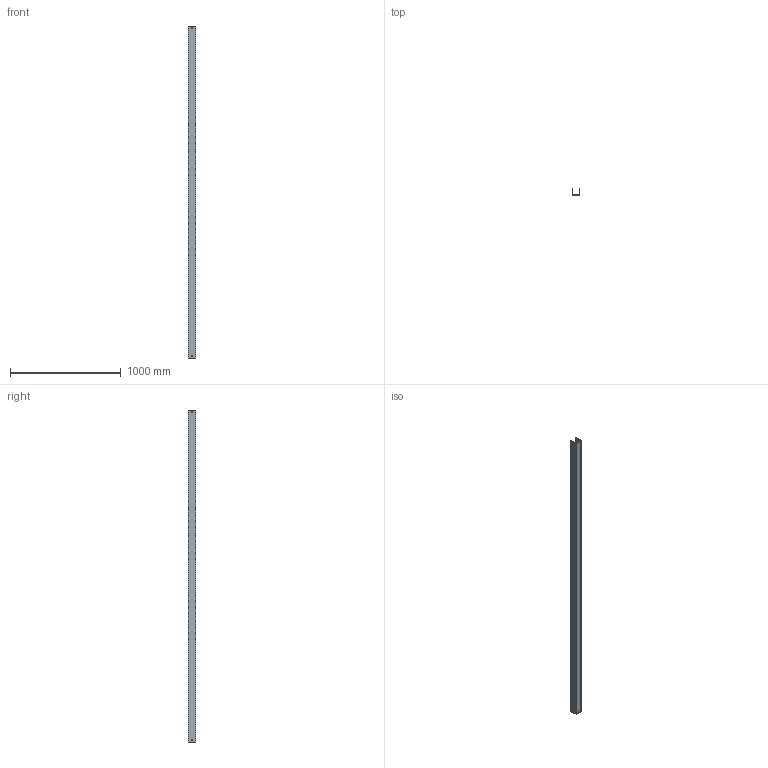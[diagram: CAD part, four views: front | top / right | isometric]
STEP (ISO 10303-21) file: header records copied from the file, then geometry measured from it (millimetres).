
FILE_DESCRIPTION (( 'STEP AP214' ), '1' );
FILE_NAME ('03B3H065.step', '2025-02-21T10:17:56', ( '' ), ( '' ), 'SwSTEP 2.0', 'SolidWorks 2023', '' );
FILE_SCHEMA (( 'AUTOMOTIVE_DESIGN' ));
Length unit declared in the file: millimetre
Products named in the file (1): 03B3H065
Bounding box: 65.5 x 65.5 x 3000 mm (x, y, z)
Volume: 1988360.5 mm3; surface area: 1159225.5 mm2
Topology: 1 solids, 1 shells, 34 faces, 96 edges, 64 vertices
Faces by surface type: plane 34
Entity records: 1127 total; most frequent: CARTESIAN_POINT 195, ORIENTED_EDGE 192, DIRECTION 166, LINE 96, EDGE_CURVE 96, VECTOR 96, VERTEX_POINT 64, EDGE_LOOP 46
